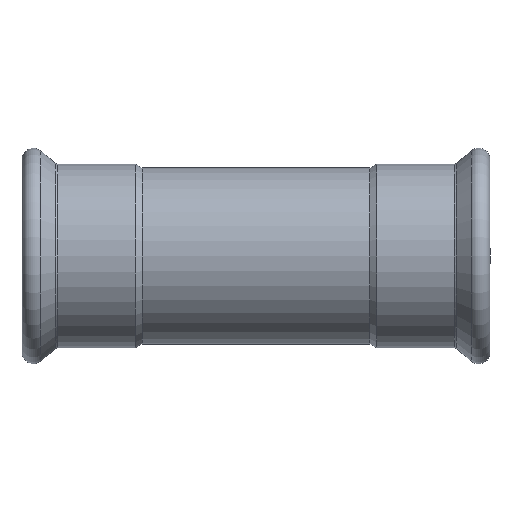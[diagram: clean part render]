
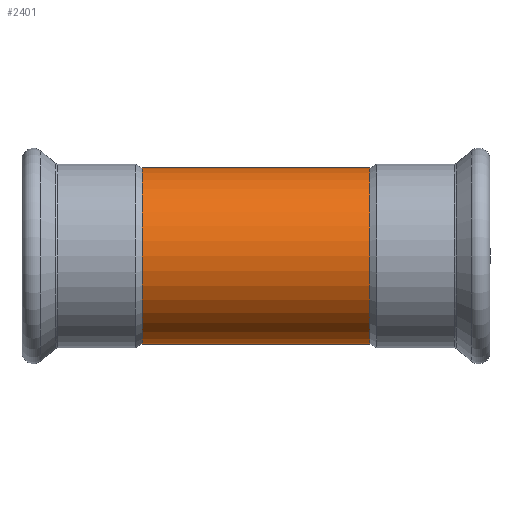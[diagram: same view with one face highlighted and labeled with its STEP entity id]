
A CAD part, front view. The second image highlights one B-rep face of the part: STEP entity #2401.
In plain terms, the highlighted cylindrical face has radius 54 mm (diameter 108 mm), a full revolution.
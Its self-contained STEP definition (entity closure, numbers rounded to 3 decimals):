
#2202=CARTESIAN_POINT('',(0.,51.749,15.429));
#2203=VERTEX_POINT('',#2202);
#2281=CARTESIAN_POINT('',(0.,51.749,15.429));
#2282=CARTESIAN_POINT('',(0.449,51.749,15.429));
#2283=CARTESIAN_POINT('',(1.048,51.756,15.404));
#2284=CARTESIAN_POINT('',(2.239,51.79,15.291));
#2285=CARTESIAN_POINT('',(4.161,51.882,14.977));
#2286=CARTESIAN_POINT('',(6.313,52.09,14.248));
#2287=CARTESIAN_POINT('',(7.887,52.303,13.434));
#2288=CARTESIAN_POINT('',(8.901,52.453,12.838));
#2289=CARTESIAN_POINT('',(9.999,52.634,12.086));
#2290=CARTESIAN_POINT('',(11.226,52.866,11.028));
#2291=CARTESIAN_POINT('',(12.034,53.033,10.181));
#2292=CARTESIAN_POINT('',(12.787,53.196,9.297));
#2293=CARTESIAN_POINT('',(13.563,53.374,8.245));
#2294=CARTESIAN_POINT('',(14.364,53.569,6.853));
#2295=CARTESIAN_POINT('',(14.84,53.691,5.791));
#2296=CARTESIAN_POINT('',(15.252,53.798,4.709));
#2297=CARTESIAN_POINT('',(15.794,53.943,2.909));
#2298=CARTESIAN_POINT('',(16.051,54.014,0.721));
#2299=CARTESIAN_POINT('',(15.975,53.993,-1.008));
#2300=CARTESIAN_POINT('',(15.857,53.961,-2.162));
#2301=CARTESIAN_POINT('',(15.595,53.889,-3.645));
#2302=CARTESIAN_POINT('',(15.149,53.77,-5.033));
#2303=CARTESIAN_POINT('',(14.702,53.656,-6.097));
#2304=CARTESIAN_POINT('',(14.376,53.573,-6.797));
#2305=CARTESIAN_POINT('',(13.676,53.401,-8.073));
#2306=CARTESIAN_POINT('',(12.771,53.191,-9.349));
#2307=CARTESIAN_POINT('',(11.732,52.969,-10.511));
#2308=CARTESIAN_POINT('',(10.616,52.747,-11.587));
#2309=CARTESIAN_POINT('',(9.057,52.469,-12.789));
#2310=CARTESIAN_POINT('',(7.325,52.221,-13.754));
#2311=CARTESIAN_POINT('',(5.872,52.054,-14.367));
#2312=CARTESIAN_POINT('',(4.362,51.911,-14.879));
#2313=CARTESIAN_POINT('',(2.789,51.809,-15.227));
#2314=CARTESIAN_POINT('',(1.196,51.758,-15.4));
#2315=CARTESIAN_POINT('',(-0.399,51.74,-15.458));
#2316=CARTESIAN_POINT('',(-2.008,51.775,-15.341));
#2317=CARTESIAN_POINT('',(-3.582,51.86,-15.052));
#2318=CARTESIAN_POINT('',(-5.119,51.975,-14.653));
#2319=CARTESIAN_POINT('',(-6.988,52.172,-13.944));
#2320=CARTESIAN_POINT('',(-9.067,52.471,-12.781));
#2321=CARTESIAN_POINT('',(-10.921,52.801,-11.353));
#2322=CARTESIAN_POINT('',(-12.215,53.07,-10.01));
#2323=CARTESIAN_POINT('',(-13.173,53.284,-8.783));
#2324=CARTESIAN_POINT('',(-13.816,53.435,-7.818));
#2325=CARTESIAN_POINT('',(-14.42,53.584,-6.718));
#2326=CARTESIAN_POINT('',(-14.821,53.686,-5.835));
#2327=CARTESIAN_POINT('',(-15.24,53.795,-4.75));
#2328=CARTESIAN_POINT('',(-15.684,53.913,-3.27));
#2329=CARTESIAN_POINT('',(-16.015,54.004,-1.169));
#2330=CARTESIAN_POINT('',(-16.015,54.004,0.778));
#2331=CARTESIAN_POINT('',(-15.835,53.955,2.305));
#2332=CARTESIAN_POINT('',(-15.537,53.874,3.826));
#2333=CARTESIAN_POINT('',(-15.06,53.747,5.31));
#2334=CARTESIAN_POINT('',(-14.419,53.584,6.72));
#2335=CARTESIAN_POINT('',(-13.677,53.401,8.07));
#2336=CARTESIAN_POINT('',(-12.662,53.165,9.505));
#2337=CARTESIAN_POINT('',(-11.329,52.885,10.94));
#2338=CARTESIAN_POINT('',(-10.002,52.635,12.083));
#2339=CARTESIAN_POINT('',(-8.544,52.394,13.083));
#2340=CARTESIAN_POINT('',(-6.442,52.103,14.205));
#2341=CARTESIAN_POINT('',(-4.182,51.884,14.971));
#2342=CARTESIAN_POINT('',(-1.8,51.768,15.364));
#2343=CARTESIAN_POINT('',(-0.598,51.749,15.429));
#2344=CARTESIAN_POINT('',(0.,51.749,15.429));
#2345=B_SPLINE_CURVE_WITH_KNOTS('',3,(#2281,#2282,#2283,#2284,#2285,#2286,#2287,#2288,#2289,#2290,#2291,#2292,#2293,#2294,#2295,#2296,#2297,#2298,#2299,#2300,#2301,#2302,#2303,#2304,#2305,#2306,#2307,#2308,#2309,#2310,#2311,#2312,#2313,#2314,#2315,#2316,#2317,#2318,#2319,#2320,#2321,#2322,#2323,#2324,#2325,#2326,#2327,#2328,#2329,#2330,#2331,#2332,#2333,#2334,#2335,#2336,#2337,#2338,#2339,#2340,#2341,#2342,#2343,#2344),.UNSPECIFIED.,.T.,.U.,(4,1,1,1,1,1,1,1,1,1,1,1,1,1,1,1,1,1,1,1,1,1,1,1,1,1,1,1,1,1,1,1,1,1,1,1,1,1,1,1,1,1,1,1,1,1,1,1,1,1,1,1,1,1,1,1,1,1,1,1,1,4),(-8.48,-8.366,-8.328,-8.177,-7.874,-7.76,-7.723,-7.571,-7.42,-7.306,-7.268,-7.117,-6.965,-6.852,-6.814,-6.663,-6.36,-6.246,-6.208,-6.057,-5.855,-5.83,-5.754,-5.653,-5.451,-5.35,-5.249,-5.047,-4.846,-4.745,-4.644,-4.442,-4.341,-4.24,-4.038,-3.937,-3.836,-3.634,-3.432,-3.23,-3.028,-2.953,-2.827,-2.726,-2.625,-2.574,-2.423,-2.221,-2.019,-1.918,-1.817,-1.615,-1.514,-1.413,-1.211,-1.06,-0.909,-0.757,-0.606,-0.303,-0.151,0.0),.UNSPECIFIED.);
#2346=EDGE_CURVE('',#2203,#2203,#2345,.T.);
#2371=CARTESIAN_POINT('',(0.,0.,0.0));
#2372=DIRECTION('',(1.0,0.,0.0));
#2373=DIRECTION('',(0.0,1.0,0.0));
#2374=AXIS2_PLACEMENT_3D('',#2371,#2372,#2373);
#2375=CYLINDRICAL_SURFACE('',#2374,54.);
#2376=CARTESIAN_POINT('',(-69.894,54.0,0.0));
#2377=VERTEX_POINT('',#2376);
#2378=CARTESIAN_POINT('',(-69.894,0.,0.0));
#2379=DIRECTION('',(1.0,0.0,0.0));
#2380=DIRECTION('',(0.0,1.0,0.0));
#2381=AXIS2_PLACEMENT_3D('',#2378,#2379,#2380);
#2382=CIRCLE('',#2381,54.);
#2383=EDGE_CURVE('',#2377,#2377,#2382,.T.);
#2384=ORIENTED_EDGE('',*,*,#2383,.T.);
#2385=EDGE_LOOP('',(#2384));
#2386=FACE_OUTER_BOUND('',#2385,.T.);
#2387=CARTESIAN_POINT('',(69.894,54.,0.0));
#2388=VERTEX_POINT('',#2387);
#2389=CARTESIAN_POINT('',(69.894,0.,0.0));
#2390=DIRECTION('',(1.0,0.0,0.0));
#2391=DIRECTION('',(0.0,1.0,0.0));
#2392=AXIS2_PLACEMENT_3D('',#2389,#2390,#2391);
#2393=CIRCLE('',#2392,54.);
#2394=EDGE_CURVE('',#2388,#2388,#2393,.T.);
#2395=ORIENTED_EDGE('',*,*,#2394,.F.);
#2396=EDGE_LOOP('',(#2395));
#2397=FACE_BOUND('',#2396,.T.);
#2398=ORIENTED_EDGE('',*,*,#2346,.F.);
#2399=EDGE_LOOP('',(#2398));
#2400=FACE_BOUND('',#2399,.T.);
#2401=ADVANCED_FACE('',(#2386,#2397,#2400),#2375,.T.);
